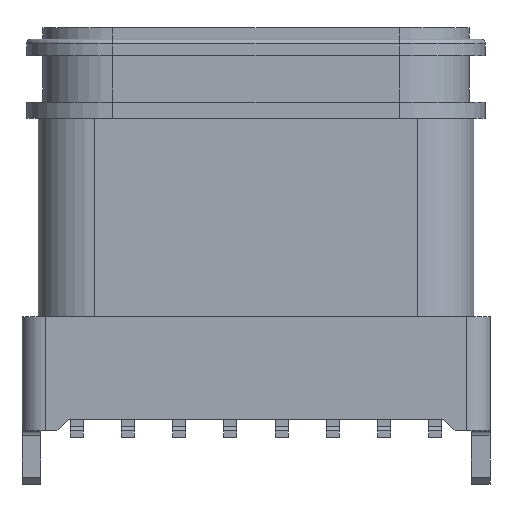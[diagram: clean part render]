
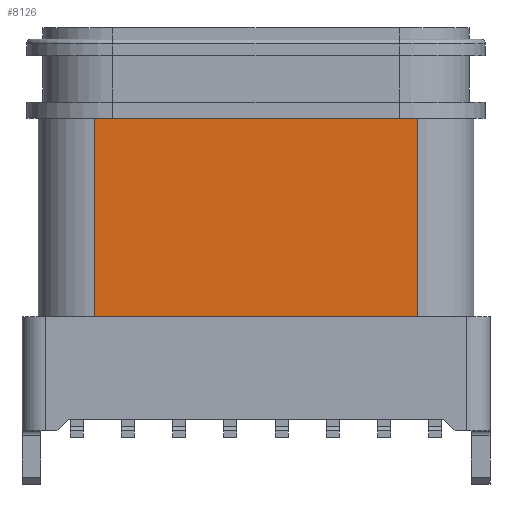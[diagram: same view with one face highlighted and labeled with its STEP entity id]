
A CAD part, front view. The second image highlights one B-rep face of the part: STEP entity #8126.
In plain terms, the highlighted planar face has unit normal (0, -1, 0).
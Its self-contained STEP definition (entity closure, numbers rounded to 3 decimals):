
#847=DIRECTION('',(0.,0.,-1.));
#848=VECTOR('',#847,4.25);
#849=CARTESIAN_POINT('',(-3.47,-1.78,3.8));
#850=LINE('',#849,#848);
#855=DIRECTION('',(1.,0.,0.));
#856=VECTOR('',#855,6.94);
#857=CARTESIAN_POINT('',(-3.47,-1.78,3.8));
#858=LINE('',#857,#856);
#859=DIRECTION('',(-1.,0.,0.));
#860=VECTOR('',#859,6.94);
#861=CARTESIAN_POINT('',(3.47,-1.78,-0.45));
#862=LINE('',#861,#860);
#943=DIRECTION('',(0.,0.,1.));
#944=VECTOR('',#943,4.25);
#945=CARTESIAN_POINT('',(3.47,-1.78,-0.45));
#946=LINE('',#945,#944);
#5908=CARTESIAN_POINT('',(-3.47,-1.78,-0.45));
#5909=VERTEX_POINT('',#5908);
#5910=CARTESIAN_POINT('',(3.47,-1.78,-0.45));
#5911=VERTEX_POINT('',#5910);
#6854=CARTESIAN_POINT('',(3.47,-1.78,3.8));
#6855=VERTEX_POINT('',#6854);
#6856=CARTESIAN_POINT('',(-3.47,-1.78,3.8));
#6857=VERTEX_POINT('',#6856);
#8113=CARTESIAN_POINT('',(0.,-1.78,-7.812));
#8114=DIRECTION('',(0.,-1.,0.));
#8115=DIRECTION('',(-1.,0.,0.));
#8116=AXIS2_PLACEMENT_3D('',#8113,#8114,#8115);
#8117=PLANE('',#8116);
#8118=ORIENTED_EDGE('',*,*,#8104,.F.);
#8120=ORIENTED_EDGE('',*,*,#8119,.T.);
#8122=ORIENTED_EDGE('',*,*,#8121,.F.);
#8123=ORIENTED_EDGE('',*,*,#7352,.T.);
#8124=EDGE_LOOP('',(#8118,#8120,#8122,#8123));
#8125=FACE_OUTER_BOUND('',#8124,.F.);
#8126=ADVANCED_FACE('',(#8125),#8117,.T.);
#7352=EDGE_CURVE('',#5911,#5909,#862,.T.);
#8104=EDGE_CURVE('',#6857,#5909,#850,.T.);
#8119=EDGE_CURVE('',#6857,#6855,#858,.T.);
#8121=EDGE_CURVE('',#5911,#6855,#946,.T.);
